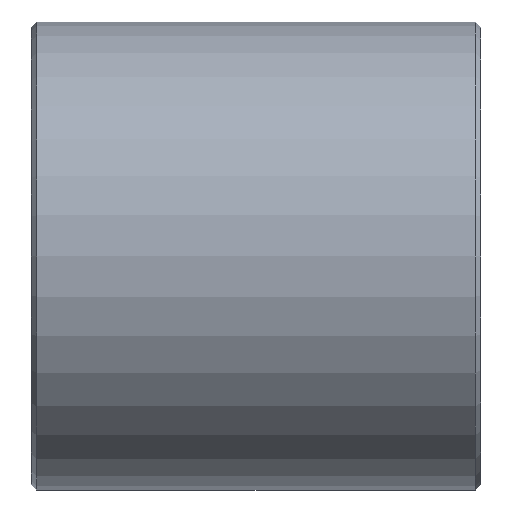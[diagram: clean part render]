
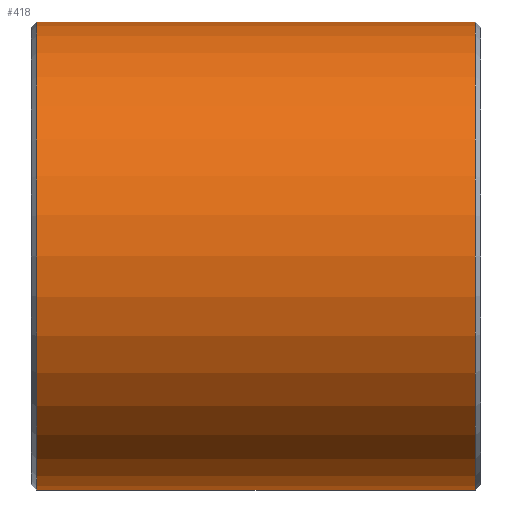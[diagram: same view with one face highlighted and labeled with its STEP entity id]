
A CAD part, front view. The second image highlights one B-rep face of the part: STEP entity #418.
In plain terms, the highlighted cylindrical face has radius 31.25 mm (diameter 62.5 mm), a full revolution.
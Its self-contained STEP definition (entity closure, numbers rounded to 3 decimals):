
#13=B_SPLINE_CURVE_WITH_KNOTS('',3,(#676,#677,#678,#679,#680,#681,#682,
#683,#684,#685,#686,#687,#688,#689,#690,#691,#692,#693,#694,#695,#696,#697),
 .UNSPECIFIED.,.F.,.F.,(4,2,2,2,2,2,2,2,2,2,4),(0.,0.196,0.393,
0.589,0.785,0.981,1.178,1.374,
1.57,1.766,1.952),.UNSPECIFIED.);
#14=B_SPLINE_CURVE_WITH_KNOTS('',3,(#698,#699,#700,#701,#702,#703),
 .UNSPECIFIED.,.F.,.F.,(4,2,4),(2.758,2.944,3.14),
 .UNSPECIFIED.);
#15=B_SPLINE_CURVE_WITH_KNOTS('',3,(#715,#716,#717,#718,#719,#720,#721,
#722,#723,#724,#725,#726,#727,#728,#729,#730,#731,#732,#733,#734,#735,#736),
 .UNSPECIFIED.,.F.,.F.,(4,2,2,2,2,2,2,2,2,2,4),(1.188,1.374,
1.57,1.766,1.963,2.159,2.355,
2.552,2.748,2.944,3.14),
 .UNSPECIFIED.);
#16=B_SPLINE_CURVE_WITH_KNOTS('',3,(#737,#738,#739,#740,#741,#742),
 .UNSPECIFIED.,.F.,.F.,(4,2,4),(0.,0.196,0.382),
 .UNSPECIFIED.);
#21=LINE('',#651,#33);
#22=LINE('',#654,#34);
#26=LINE('',#664,#38);
#30=LINE('',#671,#42);
#33=VECTOR('',#518,24.949);
#34=VECTOR('',#521,9.846);
#38=VECTOR('',#531,24.949);
#42=VECTOR('',#537,9.846);
#66=FACE_OUTER_BOUND('',#136,.T.);
#82=CYLINDRICAL_SURFACE('',#462,31.25);
#97=FACE_BOUND('',#137,.T.);
#98=FACE_BOUND('',#138,.T.);
#136=EDGE_LOOP('',(#317));
#137=EDGE_LOOP('',(#318,#319,#320,#321,#322,#323,#324,#325));
#138=EDGE_LOOP('',(#326));
#178=CIRCLE('',#463,31.25);
#179=CIRCLE('',#464,31.25);
#193=VERTEX_POINT('',#620);
#195=VERTEX_POINT('',#625);
#200=VERTEX_POINT('',#649);
#201=VERTEX_POINT('',#653);
#204=VERTEX_POINT('',#663);
#206=VERTEX_POINT('',#669);
#207=VERTEX_POINT('',#675);
#211=VERTEX_POINT('',#712);
#212=VERTEX_POINT('',#714);
#213=VERTEX_POINT('',#743);
#238=EDGE_CURVE('',#193,#200,#21,.T.);
#239=EDGE_CURVE('',#201,#193,#22,.T.);
#244=EDGE_CURVE('',#204,#195,#26,.T.);
#248=EDGE_CURVE('',#195,#206,#30,.T.);
#250=EDGE_CURVE('',#207,#204,#13,.T.);
#251=EDGE_CURVE('',#200,#207,#14,.T.);
#255=EDGE_CURVE('',#211,#211,#178,.T.);
#256=EDGE_CURVE('',#206,#212,#15,.T.);
#257=EDGE_CURVE('',#212,#201,#16,.T.);
#258=EDGE_CURVE('',#213,#213,#179,.T.);
#317=ORIENTED_EDGE('',*,*,#255,.T.);
#318=ORIENTED_EDGE('',*,*,#238,.T.);
#319=ORIENTED_EDGE('',*,*,#251,.T.);
#320=ORIENTED_EDGE('',*,*,#250,.T.);
#321=ORIENTED_EDGE('',*,*,#244,.T.);
#322=ORIENTED_EDGE('',*,*,#248,.T.);
#323=ORIENTED_EDGE('',*,*,#256,.T.);
#324=ORIENTED_EDGE('',*,*,#257,.T.);
#325=ORIENTED_EDGE('',*,*,#239,.T.);
#326=ORIENTED_EDGE('',*,*,#258,.F.);
#418=ADVANCED_FACE('',(#66,#97,#98),#82,.T.);
#462=AXIS2_PLACEMENT_3D('',#711,#552,#553);
#463=AXIS2_PLACEMENT_3D('',#713,#554,#555);
#464=AXIS2_PLACEMENT_3D('',#744,#556,#557);
#518=DIRECTION('',(1.,0.,0.));
#521=DIRECTION('',(1.,0.,0.));
#531=DIRECTION('',(-1.,0.,0.));
#537=DIRECTION('',(-1.,0.,0.));
#552=DIRECTION('center_axis',(1.,0.,0.));
#553=DIRECTION('ref_axis',(0.,1.,0.));
#554=DIRECTION('center_axis',(1.,0.,0.));
#555=DIRECTION('ref_axis',(0.,1.,0.));
#556=DIRECTION('center_axis',(1.,0.,0.));
#557=DIRECTION('ref_axis',(0.,1.,0.));
#620=CARTESIAN_POINT('',(-7.552,31.024,-3.75));
#625=CARTESIAN_POINT('',(-7.552,31.024,3.75));
#649=CARTESIAN_POINT('',(17.398,31.024,-3.75));
#651=CARTESIAN_POINT('',(0.,31.024,-3.75));
#653=CARTESIAN_POINT('',(-17.398,31.024,-3.75));
#654=CARTESIAN_POINT('',(0.,31.024,-3.75));
#663=CARTESIAN_POINT('',(17.398,31.024,3.75));
#664=CARTESIAN_POINT('',(0.,31.024,3.75));
#669=CARTESIAN_POINT('',(-17.398,31.024,3.75));
#671=CARTESIAN_POINT('',(0.,31.024,3.75));
#675=CARTESIAN_POINT('',(21.,30.814,-5.2));
#676=CARTESIAN_POINT('Ctrl Pts',(21.,30.814,-5.2));
#677=CARTESIAN_POINT('Ctrl Pts',(21.654,30.814,-5.2));
#678=CARTESIAN_POINT('Ctrl Pts',(22.351,30.837,-5.069));
#679=CARTESIAN_POINT('Ctrl Pts',(23.632,30.92,-4.538));
#680=CARTESIAN_POINT('Ctrl Pts',(24.216,30.978,-4.138));
#681=CARTESIAN_POINT('Ctrl Pts',(25.138,31.088,-3.216));
#682=CARTESIAN_POINT('Ctrl Pts',(25.538,31.146,-2.632));
#683=CARTESIAN_POINT('Ctrl Pts',(26.069,31.227,-1.351));
#684=CARTESIAN_POINT('Ctrl Pts',(26.2,31.25,-0.654));
#685=CARTESIAN_POINT('Ctrl Pts',(26.2,31.25,0.654));
#686=CARTESIAN_POINT('Ctrl Pts',(26.069,31.227,1.351));
#687=CARTESIAN_POINT('Ctrl Pts',(25.538,31.146,2.632));
#688=CARTESIAN_POINT('Ctrl Pts',(25.138,31.088,3.216));
#689=CARTESIAN_POINT('Ctrl Pts',(24.216,30.978,4.138));
#690=CARTESIAN_POINT('Ctrl Pts',(23.632,30.92,4.538));
#691=CARTESIAN_POINT('Ctrl Pts',(22.351,30.837,5.069));
#692=CARTESIAN_POINT('Ctrl Pts',(21.654,30.814,5.2));
#693=CARTESIAN_POINT('Ctrl Pts',(20.346,30.814,5.2));
#694=CARTESIAN_POINT('Ctrl Pts',(19.649,30.837,5.069));
#695=CARTESIAN_POINT('Ctrl Pts',(18.402,30.918,4.552));
#696=CARTESIAN_POINT('Ctrl Pts',(17.846,30.972,4.181));
#697=CARTESIAN_POINT('Ctrl Pts',(17.398,31.024,3.75));
#698=CARTESIAN_POINT('Ctrl Pts',(17.398,31.024,-3.75));
#699=CARTESIAN_POINT('Ctrl Pts',(17.846,30.972,-4.181));
#700=CARTESIAN_POINT('Ctrl Pts',(18.402,30.918,-4.552));
#701=CARTESIAN_POINT('Ctrl Pts',(19.649,30.837,-5.069));
#702=CARTESIAN_POINT('Ctrl Pts',(20.346,30.814,-5.2));
#703=CARTESIAN_POINT('Ctrl Pts',(21.,30.814,-5.2));
#711=CARTESIAN_POINT('Origin',(0.,0.,0.));
#712=CARTESIAN_POINT('',(-29.293,31.25,0.));
#713=CARTESIAN_POINT('Origin',(-29.293,0.,0.));
#714=CARTESIAN_POINT('',(-21.,30.814,-5.2));
#715=CARTESIAN_POINT('Ctrl Pts',(-17.398,31.024,3.75));
#716=CARTESIAN_POINT('Ctrl Pts',(-17.846,30.972,4.181));
#717=CARTESIAN_POINT('Ctrl Pts',(-18.402,30.918,4.552));
#718=CARTESIAN_POINT('Ctrl Pts',(-19.649,30.837,5.069));
#719=CARTESIAN_POINT('Ctrl Pts',(-20.346,30.814,5.2));
#720=CARTESIAN_POINT('Ctrl Pts',(-21.654,30.814,5.2));
#721=CARTESIAN_POINT('Ctrl Pts',(-22.351,30.837,5.069));
#722=CARTESIAN_POINT('Ctrl Pts',(-23.632,30.92,4.538));
#723=CARTESIAN_POINT('Ctrl Pts',(-24.216,30.978,4.138));
#724=CARTESIAN_POINT('Ctrl Pts',(-25.138,31.088,3.216));
#725=CARTESIAN_POINT('Ctrl Pts',(-25.538,31.146,2.632));
#726=CARTESIAN_POINT('Ctrl Pts',(-26.069,31.227,1.351));
#727=CARTESIAN_POINT('Ctrl Pts',(-26.2,31.25,0.654));
#728=CARTESIAN_POINT('Ctrl Pts',(-26.2,31.25,-0.654));
#729=CARTESIAN_POINT('Ctrl Pts',(-26.069,31.227,-1.351));
#730=CARTESIAN_POINT('Ctrl Pts',(-25.538,31.146,-2.632));
#731=CARTESIAN_POINT('Ctrl Pts',(-25.138,31.088,-3.216));
#732=CARTESIAN_POINT('Ctrl Pts',(-24.216,30.978,-4.138));
#733=CARTESIAN_POINT('Ctrl Pts',(-23.632,30.92,-4.538));
#734=CARTESIAN_POINT('Ctrl Pts',(-22.351,30.837,-5.069));
#735=CARTESIAN_POINT('Ctrl Pts',(-21.654,30.814,-5.2));
#736=CARTESIAN_POINT('Ctrl Pts',(-21.,30.814,-5.2));
#737=CARTESIAN_POINT('Ctrl Pts',(-21.,30.814,-5.2));
#738=CARTESIAN_POINT('Ctrl Pts',(-20.346,30.814,-5.2));
#739=CARTESIAN_POINT('Ctrl Pts',(-19.649,30.837,-5.069));
#740=CARTESIAN_POINT('Ctrl Pts',(-18.402,30.918,-4.552));
#741=CARTESIAN_POINT('Ctrl Pts',(-17.846,30.972,-4.181));
#742=CARTESIAN_POINT('Ctrl Pts',(-17.398,31.024,-3.75));
#743=CARTESIAN_POINT('',(29.293,31.25,0.));
#744=CARTESIAN_POINT('Origin',(29.293,0.,0.));
